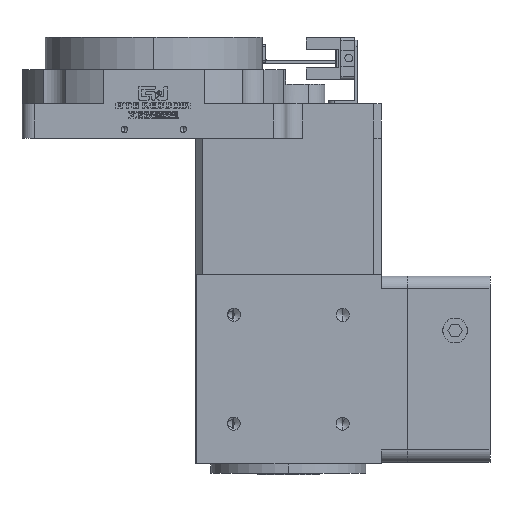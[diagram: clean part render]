
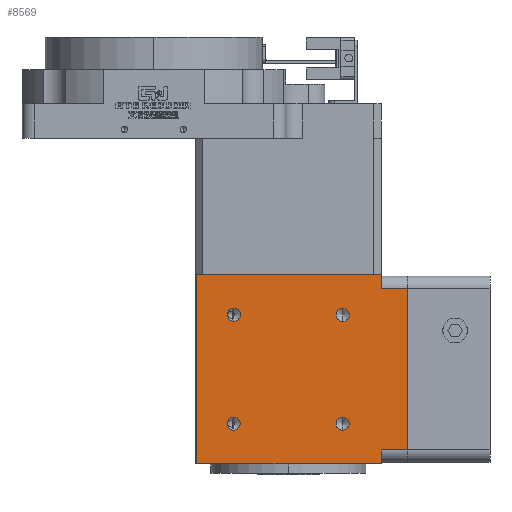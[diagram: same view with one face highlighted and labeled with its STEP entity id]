
A CAD part, left-side view. The second image highlights one B-rep face of the part: STEP entity #8569.
In plain terms, the highlighted planar face has unit normal (-1, 0, 0).
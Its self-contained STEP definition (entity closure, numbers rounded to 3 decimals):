
#149 = VECTOR ( 'NONE', #35363, 1000. ) ;
#717 = ORIENTED_EDGE ( 'NONE', *, *, #6240, .F. ) ;
#854 = VERTEX_POINT ( 'NONE', #15977 ) ;
#1331 = EDGE_LOOP ( 'NONE', ( #2295, #1863, #717, #19191, #26950, #31234, #18835, #26917 ) ) ;
#1863 = ORIENTED_EDGE ( 'NONE', *, *, #16305, .T. ) ;
#1992 = EDGE_CURVE ( 'NONE', #13018, #854, #17463, .T. ) ;
#2122 = VERTEX_POINT ( 'NONE', #2339 ) ;
#2295 = ORIENTED_EDGE ( 'NONE', *, *, #27150, .F. ) ;
#2339 = CARTESIAN_POINT ( 'NONE',  ( -34.378, -60.467, -99.25 ) ) ;
#2525 = DIRECTION ( 'NONE',  ( 0., 0., -1. ) ) ;
#2766 = LINE ( 'NONE', #23172, #19612 ) ;
#3272 = ORIENTED_EDGE ( 'NONE', *, *, #33734, .F. ) ;
#3286 = VERTEX_POINT ( 'NONE', #19417 ) ;
#3747 = DIRECTION ( 'NONE',  ( 0., 0., -1. ) ) ;
#3818 = CARTESIAN_POINT ( 'NONE',  ( -34.378, -12.896, -84.15 ) ) ;
#4081 = DIRECTION ( 'NONE',  ( -1., 0., 0. ) ) ;
#4416 = AXIS2_PLACEMENT_3D ( 'NONE', #18460, #4081, #33637 ) ;
#4421 = ORIENTED_EDGE ( 'NONE', *, *, #5466, .F. ) ;
#4477 = DIRECTION ( 'NONE',  ( 0., -1., 0. ) ) ;
#4844 = EDGE_CURVE ( 'NONE', #37436, #20590, #4886, .T. ) ;
#4886 = CIRCLE ( 'NONE', #11695, 2.1 ) ;
#5130 = DIRECTION ( 'NONE',  ( -1., 0., 0. ) ) ;
#5218 = VECTOR ( 'NONE', #10720, 1000. ) ;
#5466 = EDGE_CURVE ( 'NONE', #28589, #13698, #35824, .T. ) ;
#5638 = AXIS2_PLACEMENT_3D ( 'NONE', #23284, #8682, #20553 ) ;
#5906 = EDGE_CURVE ( 'NONE', #35187, #2122, #2766, .T. ) ;
#6229 = DIRECTION ( 'NONE',  ( -1., 0., 0. ) ) ;
#6240 = EDGE_CURVE ( 'NONE', #34858, #34645, #7023, .T. ) ;
#6263 = EDGE_LOOP ( 'NONE', ( #37076, #4421 ) ) ;
#6411 = AXIS2_PLACEMENT_3D ( 'NONE', #28677, #5130, #16989 ) ;
#6764 = EDGE_CURVE ( 'NONE', #20590, #37436, #32492, .T. ) ;
#7023 = LINE ( 'NONE', #18869, #15292 ) ;
#7688 = VERTEX_POINT ( 'NONE', #16476 ) ;
#7754 = LINE ( 'NONE', #22370, #37077 ) ;
#8305 = LINE ( 'NONE', #20167, #25916 ) ;
#8569 = ADVANCED_FACE ( 'NONE', ( #37738, #23494, #11028, #22914, #34785 ), #19968, .F. ) ;
#8682 = DIRECTION ( 'NONE',  ( 1., 0., 0. ) ) ;
#8782 = LINE ( 'NONE', #32155, #16346 ) ;
#9614 = CARTESIAN_POINT ( 'NONE',  ( -34.378, -12.967, -51.179 ) ) ;
#9916 = CARTESIAN_POINT ( 'NONE',  ( -34.378, -12.896, -86.25 ) ) ;
#10087 = CARTESIAN_POINT ( 'NONE',  ( -34.378, -0.467, -38.25 ) ) ;
#10263 = EDGE_LOOP ( 'NONE', ( #28891, #33782 ) ) ;
#10292 = DIRECTION ( 'NONE',  ( -1., 0., 0. ) ) ;
#10327 = CARTESIAN_POINT ( 'NONE',  ( -34.378, -0.967, -38.25 ) ) ;
#10432 = EDGE_CURVE ( 'NONE', #3286, #2122, #8305, .T. ) ;
#10589 = AXIS2_PLACEMENT_3D ( 'NONE', #23764, #14816, #32514 ) ;
#10720 = DIRECTION ( 'NONE',  ( 0., -1., 0. ) ) ;
#11028 = FACE_BOUND ( 'NONE', #18457, .T. ) ;
#11089 = EDGE_LOOP ( 'NONE', ( #30394, #23459 ) ) ;
#11695 = AXIS2_PLACEMENT_3D ( 'NONE', #9916, #10292, #16166 ) ;
#11880 = EDGE_CURVE ( 'NONE', #14964, #34858, #30710, .T. ) ;
#12844 = EDGE_CURVE ( 'NONE', #13698, #28589, #12937, .T. ) ;
#12937 = CIRCLE ( 'NONE', #17917, 2.1 ) ;
#13018 = VERTEX_POINT ( 'NONE', #19092 ) ;
#13431 = EDGE_CURVE ( 'NONE', #28343, #7688, #27958, .T. ) ;
#13698 = VERTEX_POINT ( 'NONE', #34722 ) ;
#13740 = CARTESIAN_POINT ( 'NONE',  ( -34.378, -0.967, -99.25 ) ) ;
#14816 = DIRECTION ( 'NONE',  ( -1., 0., 0. ) ) ;
#14916 = VERTEX_POINT ( 'NONE', #37608 ) ;
#14964 = VERTEX_POINT ( 'NONE', #10327 ) ;
#15149 = DIRECTION ( 'NONE',  ( 0., 0., 1. ) ) ;
#15289 = CARTESIAN_POINT ( 'NONE',  ( -34.378, -0.967, -38.25 ) ) ;
#15292 = VECTOR ( 'NONE', #3747, 1000. ) ;
#15829 = ORIENTED_EDGE ( 'NONE', *, *, #1992, .F. ) ;
#15977 = CARTESIAN_POINT ( 'NONE',  ( -34.378, -48.037, -53.35 ) ) ;
#16166 = DIRECTION ( 'NONE',  ( 0., 0., 1. ) ) ;
#16305 = EDGE_CURVE ( 'NONE', #14916, #34645, #7754, .T. ) ;
#16346 = VECTOR ( 'NONE', #17927, 1000. ) ;
#16476 = CARTESIAN_POINT ( 'NONE',  ( -34.378, -12.967, -53.279 ) ) ;
#16989 = DIRECTION ( 'NONE',  ( 0., 0., 1. ) ) ;
#17454 = CIRCLE ( 'NONE', #10589, 2.1 ) ;
#17463 = CIRCLE ( 'NONE', #4416, 2.1 ) ;
#17917 = AXIS2_PLACEMENT_3D ( 'NONE', #19900, #29058, #31590 ) ;
#17927 = DIRECTION ( 'NONE',  ( 0., 0., -1. ) ) ;
#18457 = EDGE_LOOP ( 'NONE', ( #15829, #3272 ) ) ;
#18460 = CARTESIAN_POINT ( 'NONE',  ( -34.378, -48.037, -51.25 ) ) ;
#18835 = ORIENTED_EDGE ( 'NONE', *, *, #10432, .F. ) ;
#18869 = CARTESIAN_POINT ( 'NONE',  ( -34.378, -60.467, -38.25 ) ) ;
#19092 = CARTESIAN_POINT ( 'NONE',  ( -34.378, -48.037, -49.15 ) ) ;
#19191 = ORIENTED_EDGE ( 'NONE', *, *, #11880, .F. ) ;
#19417 = CARTESIAN_POINT ( 'NONE',  ( -34.378, -60.467, -94.75 ) ) ;
#19612 = VECTOR ( 'NONE', #38380, 1000. ) ;
#19900 = CARTESIAN_POINT ( 'NONE',  ( -34.378, -47.967, -86.321 ) ) ;
#19968 = PLANE ( 'NONE',  #5638 ) ;
#20167 = CARTESIAN_POINT ( 'NONE',  ( -34.378, -60.467, -38.25 ) ) ;
#20553 = DIRECTION ( 'NONE',  ( 0., 1., 0. ) ) ;
#20590 = VERTEX_POINT ( 'NONE', #3818 ) ;
#22370 = CARTESIAN_POINT ( 'NONE',  ( -34.378, -0.467, -42.75 ) ) ;
#22776 = EDGE_CURVE ( 'NONE', #3286, #29466, #37445, .T. ) ;
#22914 = FACE_BOUND ( 'NONE', #11089, .T. ) ;
#23172 = CARTESIAN_POINT ( 'NONE',  ( -34.378, -0.467, -99.25 ) ) ;
#23282 = DIRECTION ( 'NONE',  ( 0., 0., 1. ) ) ;
#23284 = CARTESIAN_POINT ( 'NONE',  ( -34.378, -0.467, -38.25 ) ) ;
#23459 = ORIENTED_EDGE ( 'NONE', *, *, #25797, .F. ) ;
#23494 = FACE_BOUND ( 'NONE', #6263, .T. ) ;
#23764 = CARTESIAN_POINT ( 'NONE',  ( -34.378, -48.037, -51.25 ) ) ;
#23858 = DIRECTION ( 'NONE',  ( -1., 0., 0. ) ) ;
#24061 = LINE ( 'NONE', #15289, #149 ) ;
#25336 = CARTESIAN_POINT ( 'NONE',  ( -34.378, -12.967, -49.079 ) ) ;
#25797 = EDGE_CURVE ( 'NONE', #7688, #28343, #25930, .T. ) ;
#25916 = VECTOR ( 'NONE', #2525, 1000. ) ;
#25930 = CIRCLE ( 'NONE', #35850, 2.1 ) ;
#26585 = EDGE_CURVE ( 'NONE', #14964, #35187, #24061, .T. ) ;
#26917 = ORIENTED_EDGE ( 'NONE', *, *, #22776, .T. ) ;
#26950 = ORIENTED_EDGE ( 'NONE', *, *, #26585, .T. ) ;
#27150 = EDGE_CURVE ( 'NONE', #14916, #29466, #8782, .T. ) ;
#27356 = DIRECTION ( 'NONE',  ( -1., 0., 0. ) ) ;
#27958 = CIRCLE ( 'NONE', #33524, 2.1 ) ;
#28217 = DIRECTION ( 'NONE',  ( 0., 1., 0. ) ) ;
#28343 = VERTEX_POINT ( 'NONE', #25336 ) ;
#28438 = VECTOR ( 'NONE', #4477, 1000. ) ;
#28589 = VERTEX_POINT ( 'NONE', #33632 ) ;
#28657 = CARTESIAN_POINT ( 'NONE',  ( -34.378, -0.467, -94.75 ) ) ;
#28677 = CARTESIAN_POINT ( 'NONE',  ( -34.378, -12.896, -86.25 ) ) ;
#28891 = ORIENTED_EDGE ( 'NONE', *, *, #6764, .F. ) ;
#29058 = DIRECTION ( 'NONE',  ( -1., 0., 0. ) ) ;
#29093 = CARTESIAN_POINT ( 'NONE',  ( -34.378, -68.967, -94.75 ) ) ;
#29466 = VERTEX_POINT ( 'NONE', #29093 ) ;
#30394 = ORIENTED_EDGE ( 'NONE', *, *, #13431, .F. ) ;
#30710 = LINE ( 'NONE', #10087, #28438 ) ;
#30976 = CARTESIAN_POINT ( 'NONE',  ( -34.378, -60.467, -42.75 ) ) ;
#31234 = ORIENTED_EDGE ( 'NONE', *, *, #5906, .T. ) ;
#31590 = DIRECTION ( 'NONE',  ( 0., 0., 1. ) ) ;
#32155 = CARTESIAN_POINT ( 'NONE',  ( -34.378, -68.967, -38.25 ) ) ;
#32492 = CIRCLE ( 'NONE', #6411, 2.1 ) ;
#32514 = DIRECTION ( 'NONE',  ( 0., 0., 1. ) ) ;
#32716 = CARTESIAN_POINT ( 'NONE',  ( -34.378, -60.467, -38.25 ) ) ;
#32883 = CARTESIAN_POINT ( 'NONE',  ( -34.378, -12.967, -51.179 ) ) ;
#33524 = AXIS2_PLACEMENT_3D ( 'NONE', #9614, #27356, #38480 ) ;
#33632 = CARTESIAN_POINT ( 'NONE',  ( -34.378, -47.967, -88.421 ) ) ;
#33637 = DIRECTION ( 'NONE',  ( 0., 0., 1. ) ) ;
#33734 = EDGE_CURVE ( 'NONE', #854, #13018, #17454, .T. ) ;
#33782 = ORIENTED_EDGE ( 'NONE', *, *, #4844, .F. ) ;
#34645 = VERTEX_POINT ( 'NONE', #30976 ) ;
#34722 = CARTESIAN_POINT ( 'NONE',  ( -34.378, -47.967, -84.221 ) ) ;
#34785 = FACE_OUTER_BOUND ( 'NONE', #1331, .T. ) ;
#34858 = VERTEX_POINT ( 'NONE', #32716 ) ;
#35187 = VERTEX_POINT ( 'NONE', #13740 ) ;
#35363 = DIRECTION ( 'NONE',  ( 0., 0., -1. ) ) ;
#35824 = CIRCLE ( 'NONE', #37066, 2.1 ) ;
#35850 = AXIS2_PLACEMENT_3D ( 'NONE', #32883, #6229, #15149 ) ;
#36660 = CARTESIAN_POINT ( 'NONE',  ( -34.378, -12.896, -88.35 ) ) ;
#37066 = AXIS2_PLACEMENT_3D ( 'NONE', #38492, #23858, #23282 ) ;
#37076 = ORIENTED_EDGE ( 'NONE', *, *, #12844, .F. ) ;
#37077 = VECTOR ( 'NONE', #28217, 1000. ) ;
#37436 = VERTEX_POINT ( 'NONE', #36660 ) ;
#37445 = LINE ( 'NONE', #28657, #5218 ) ;
#37608 = CARTESIAN_POINT ( 'NONE',  ( -34.378, -68.967, -42.75 ) ) ;
#37738 = FACE_BOUND ( 'NONE', #10263, .T. ) ;
#38380 = DIRECTION ( 'NONE',  ( 0., -1., 0. ) ) ;
#38480 = DIRECTION ( 'NONE',  ( 0., 0., 1. ) ) ;
#38492 = CARTESIAN_POINT ( 'NONE',  ( -34.378, -47.967, -86.321 ) ) ;
